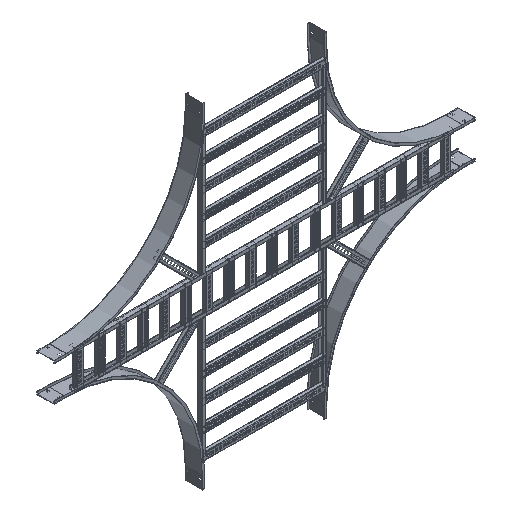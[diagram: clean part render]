
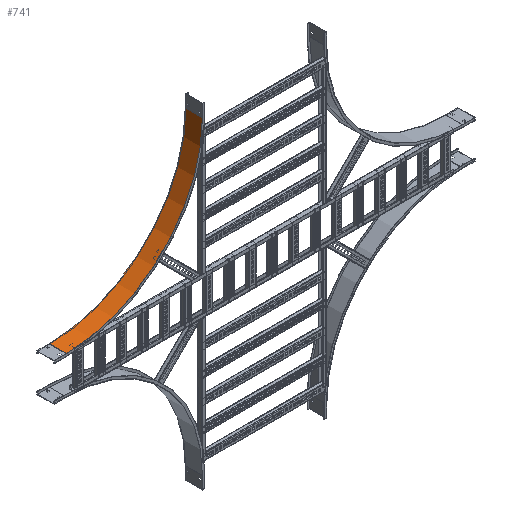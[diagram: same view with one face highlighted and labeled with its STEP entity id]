
A CAD part, isometric view. The second image highlights one B-rep face of the part: STEP entity #741.
In plain terms, the highlighted cylindrical face has radius 838.2 mm (diameter 1676.4 mm), a partial arc.
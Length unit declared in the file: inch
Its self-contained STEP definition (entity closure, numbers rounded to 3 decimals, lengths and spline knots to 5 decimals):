
#156=CARTESIAN_POINT('',(0.,-33.,3.));
#157=DIRECTION('',(1.,0.,0.));
#158=DIRECTION('',(0.,1.,0.));
#159=AXIS2_PLACEMENT_3D('',#156,#157,#158);
#165=DIRECTION('',(1.,0.,0.));
#166=VECTOR('',#165,4.175);
#167=CARTESIAN_POINT('',(-4.175,0.,3.));
#168=LINE('',#167,#166);
#169=CARTESIAN_POINT('',(-4.175,-33.,3.));
#170=DIRECTION('',(1.,0.,0.));
#171=DIRECTION('',(0.,1.,0.));
#172=AXIS2_PLACEMENT_3D('',#169,#170,#171);
#174=DIRECTION('',(1.,0.,0.));
#175=VECTOR('',#174,4.175);
#176=CARTESIAN_POINT('',(-4.175,-33.,36.));
#177=LINE('',#176,#175);
#409=CARTESIAN_POINT('',(-4.175,0.,3.));
#410=CARTESIAN_POINT('',(0.,0.,3.));
#411=VERTEX_POINT('',#409);
#412=VERTEX_POINT('',#410);
#425=CARTESIAN_POINT('',(-4.175,-33.,36.));
#426=CARTESIAN_POINT('',(0.,-33.,36.));
#427=VERTEX_POINT('',#425);
#428=VERTEX_POINT('',#426);
#729=CARTESIAN_POINT('',(-1.,-33.,3.));
#730=DIRECTION('',(1.,0.,0.));
#731=DIRECTION('',(0.,-1.,0.));
#732=AXIS2_PLACEMENT_3D('',#729,#730,#731);
#733=CYLINDRICAL_SURFACE('',#732,33.);
#734=ORIENTED_EDGE('',*,*,#553,.F.);
#735=ORIENTED_EDGE('',*,*,#596,.T.);
#737=ORIENTED_EDGE('',*,*,#736,.T.);
#738=ORIENTED_EDGE('',*,*,#715,.F.);
#739=EDGE_LOOP('',(#734,#735,#737,#738));
#740=FACE_OUTER_BOUND('',#739,.F.);
#741=ADVANCED_FACE('',(#740),#733,.F.);
#160=CIRCLE('',#159,33.);
#173=CIRCLE('',#172,33.);
#553=EDGE_CURVE('',#411,#412,#168,.T.);
#596=EDGE_CURVE('',#411,#427,#173,.T.);
#715=EDGE_CURVE('',#412,#428,#160,.T.);
#736=EDGE_CURVE('',#427,#428,#177,.T.);
